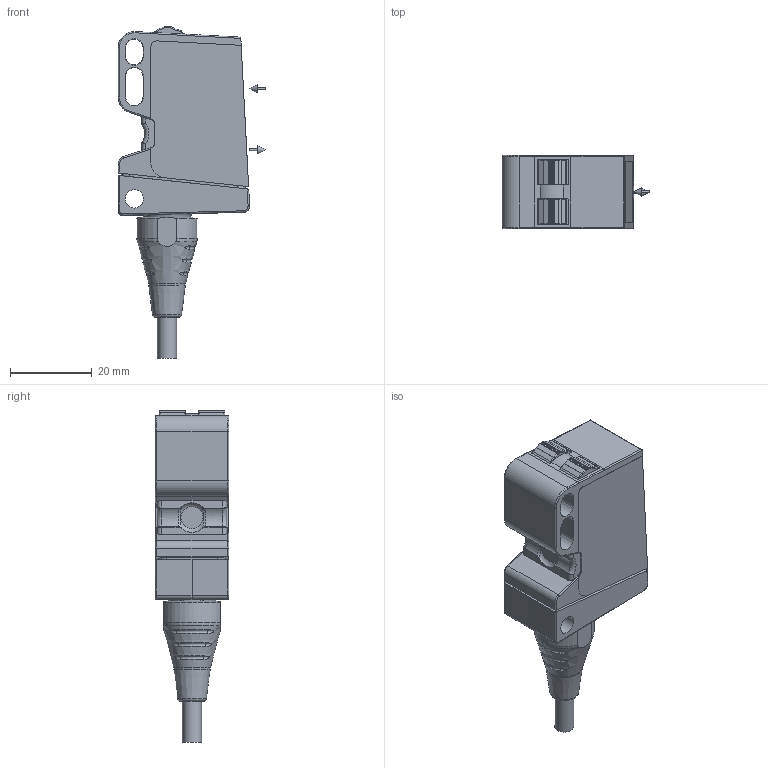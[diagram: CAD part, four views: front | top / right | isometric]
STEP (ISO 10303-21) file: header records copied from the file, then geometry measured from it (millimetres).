
FILE_DESCRIPTION( ( 'Unknown' ), '1' );
FILE_NAME( 'X:/SolidEdge/Models/Dokumentationen/Opto/O300_ O500 Kabel/vereinfachte Modelle/Neutralformate/O500_x_Kabel.stp', 'Unknown', ( 'Unknown' ), ( 'Unknown' ), 'PSStep 15.0.49', 'Unknown', ' ' );
FILE_SCHEMA( ( 'AUTOMOTIVE_DESIGN { 1 0 10303 214 1 1 1 1 }' ) );
Length unit declared in the file: millimetre
Products named in the file (3): O500_Geh.Unterteil_nachbearbeitet
Bounding box: 36.25 x 18 x 81.37 mm (x, y, z)
Volume: 24769.2 mm3; surface area: 7495.6 mm2
Topology: 3 solids, 3 shells, 339 faces, 847 edges, 514 vertices
Faces by surface type: cylinder 140, plane 102, torus 38, bspline 22, cone 17, sphere 16, extrusion 4
Full cylindrical faces by diameter (mm): 0.5 x2, 4.5 x1, 4.7 x1
Entity records: 15376 total; most frequent: CARTESIAN_POINT 4707, DIRECTION 1739, ORIENTED_EDGE 1618, EDGE_CURVE 809, AXIS2_PLACEMENT_3D 701, VERTEX_POINT 502, EDGE_LOOP 369, FACE_OUTER_BOUND 347
